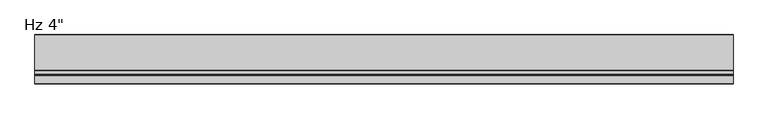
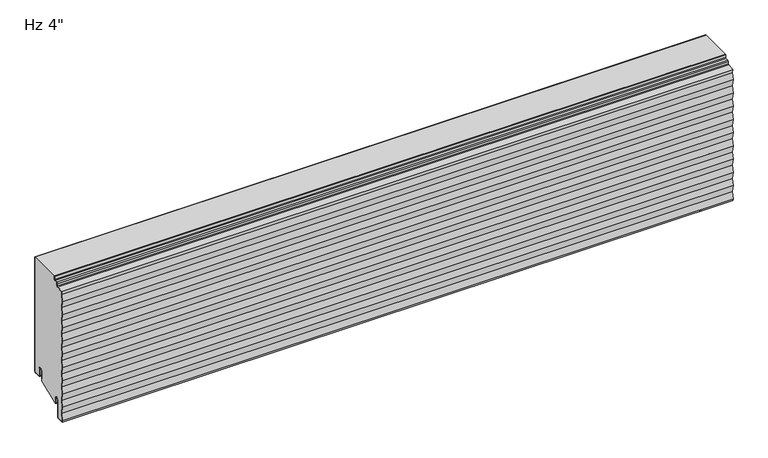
"""IFC4 building model written with IfcOpenShell, lengths in millimetres: plate geometry."""

from ifc_helpers import new_model, si_unit, point, frame, frame_2d, origin, place, context, project, spatial, polyline, circle_curve, trimmed, segment, composite_curve, outline, extrude, source, transform, mapped, element, save


def plate_b68b473e(model_context):
    return source(origin(), model_context, "Body", "SweptSolid", [
        extrude(outline(composite_curve([segment(trimmed(circle_curve(frame_2d((-21.43125, 19.05)), 4.96875), [point((-16.4625, 19.05))], [point((-26.4, 19.05))], True, "CARTESIAN"), True, "CONTINUOUS"), segment(polyline([(-26.4, 19.05), (-26.4, -3.1323422), (-74.6157227, -23.01875), (-76.2, -23.01875), (-76.2, -13.5080174), (-76.99375, -13.5080174), (-76.7875, -11.9205174)]), True, "CONTINUOUS"), segment(trimmed(circle_curve(frame_2d((-81.75625, -11.9205174)), 4.96875), [point((-76.7875, -11.9205174))], [point((-86.725, -11.9205174))], True, "CARTESIAN"), True, "CONTINUOUS"), segment(polyline([(-86.725, -11.9205174), (-86.725, -50.1038221)]), True, "CONTINUOUS"), segment(trimmed(circle_curve(frame_2d((-88.10625, -50.1038221)), 1.38125), [point((-86.725, -50.1038221))], [point((-88.033961, -51.4831791))], False, "CARTESIAN"), True, "CONTINUOUS"), segment(polyline([(-88.033961, -51.4831791), (-99.146461, -52.0655606)]), True, "CONTINUOUS"), segment(trimmed(circle_curve(frame_2d((-99.21875, -50.6862035)), 1.38125), [point((-99.146461, -52.0655606))], [point((-100.5310452, -51.1171708))], False, "CARTESIAN"), True, "CONTINUOUS"), segment(polyline([(-100.5310452, -51.1171708), (-100.8936034, -48.8511825), (-98.4552034, -33.6111825), (-100.8936034, -18.3711825), (-98.4552034, -3.1311825), (-100.8936034, 12.1088175), (-98.4552034, 27.3488175), (-100.8936034, 42.5888175), (-98.4552034, 57.8288175), (-100.8936034, 73.0688175), (-98.4552034, 88.3088175), (-100.8936034, 103.5488175), (-98.4552034, 118.7888175), (-100.8936034, 134.0288175), (-98.4552034, 149.2688175), (-100.8936034, 164.5088175), (-98.4552034, 179.7488175), (-100.8936034, 194.9888175), (-98.4552034, 210.2288175), (-100.8936034, 225.4688175), (-98.4552034, 240.7088175), (-99.5475009, 247.5356771), (-85.5895807, 248.2671807)]), True, "CONTINUOUS"), segment(trimmed(circle_curve(frame_2d((-85.725, 250.8511347)), 2.5875), [point((-85.5895807, 248.2671807))], [point((-83.1375, 250.8511347))], True, "CARTESIAN"), True, "CONTINUOUS"), segment(polyline([(-83.1375, 250.8511347), (-83.1375, 255.4824411)]), True, "CONTINUOUS"), segment(trimmed(circle_curve(frame_2d((-81.75625, 255.4824411)), 1.38125), [point((-83.1375, 255.4824411))], [point((-81.828539, 256.8617981))], False, "CARTESIAN"), True, "CONTINUOUS"), segment(polyline([(-81.828539, 256.8617981), (-76.0645807, 257.1638744)]), True, "CONTINUOUS"), segment(trimmed(circle_curve(frame_2d((-76.2, 259.7478283)), 2.5875), [point((-76.0645807, 257.1638744))], [point((-73.6125, 259.7478283))], True, "CARTESIAN"), True, "CONTINUOUS"), segment(polyline([(-73.6125, 259.7478283), (-73.6125, 266.4), (-1.0, 266.4), (-1.0, 3.175)]), True, "CONTINUOUS"), segment(trimmed(circle_curve(frame_2d((-2.38125, 3.175)), 1.38125), [point((-1.0, 3.175))], [point((-2.38125, 1.79375))], False, "CARTESIAN"), True, "CONTINUOUS"), segment(polyline([(-2.38125, 1.79375), (-15.08125, 1.79375)]), True, "CONTINUOUS"), segment(trimmed(circle_curve(frame_2d((-15.08125, 3.175)), 1.38125), [point((-15.08125, 1.79375))], [point((-16.4625, 3.175))], False, "CARTESIAN"), True, "CONTINUOUS"), segment(polyline([(-16.4625, 3.175), (-16.4625, 19.05)]), True, "CONTINUOUS")], self_intersect=False)), frame((-730.0, 0.0, 0.0), z_axis=(1.0, 0.0, 0.0), x_axis=(0.0, 1.0, 0.0)), (0.0, 0.0, 1.0), 1460.0),
        extrude(outline(composite_curve([segment(polyline([(-25.4, 0.79375), (-26.4, 0.79375), (-26.4, 19.05)]), True, "CONTINUOUS"), segment(trimmed(circle_curve(frame_2d((-21.43125, 19.05)), 4.96875), [point((-26.4, 19.05))], [point((-16.4625, 19.05))], False, "CARTESIAN"), True, "CONTINUOUS"), segment(polyline([(-16.4625, 19.05), (-16.4625, 3.175)]), True, "CONTINUOUS"), segment(trimmed(circle_curve(frame_2d((-15.08125, 3.175)), 1.38125), [point((-16.4625, 3.175))], [point((-15.08125, 1.79375))], True, "CARTESIAN"), True, "CONTINUOUS"), segment(polyline([(-15.08125, 1.79375), (-2.38125, 1.79375)]), True, "CONTINUOUS"), segment(trimmed(circle_curve(frame_2d((-2.38125, 3.175)), 1.38125), [point((-2.38125, 1.79375))], [point((-1.0, 3.175))], True, "CARTESIAN"), True, "CONTINUOUS"), segment(polyline([(-1.0, 3.175), (-1.0, 266.4), (0.0, 266.4), (0.0, 3.175)]), True, "CONTINUOUS"), segment(trimmed(circle_curve(frame_2d((-2.38125, 3.175)), 2.38125), [point((0.0, 3.175))], [point((-2.38125, 0.79375))], False, "CARTESIAN"), True, "CONTINUOUS"), segment(polyline([(-2.38125, 0.79375), (-15.08125, 0.79375)]), True, "CONTINUOUS"), segment(trimmed(circle_curve(frame_2d((-15.08125, 3.175)), 2.38125), [point((-15.08125, 0.79375))], [point((-17.4625, 3.175))], False, "CARTESIAN"), True, "CONTINUOUS"), segment(polyline([(-17.4625, 3.175), (-17.4625, 19.05)]), True, "CONTINUOUS"), segment(trimmed(circle_curve(frame_2d((-21.43125, 19.05)), 3.96875), [point((-17.4625, 19.05))], [point((-25.4, 19.05))], True, "CARTESIAN"), True, "CONTINUOUS"), segment(polyline([(-25.4, 19.05), (-25.4, 0.79375)]), True, "CONTINUOUS")], self_intersect=False)), frame((-730.0, 0.0, 0.0), z_axis=(1.0, 0.0, 0.0), x_axis=(0.0, 1.0, 0.0)), (0.0, 0.0, 1.0), 1460.0),
        extrude(outline(composite_curve([segment(trimmed(circle_curve(frame_2d((-76.99375, -23.2314549)), 0.79375), [point((-76.2, -23.2314549))], [point((-77.7875, -23.2314549))], False, "CARTESIAN"), True, "CONTINUOUS"), segment(polyline([(-77.7875, -23.2314549), (-77.7875, -11.9205174)]), True, "CONTINUOUS"), segment(trimmed(circle_curve(frame_2d((-81.75625, -11.9205174)), 3.96875), [point((-77.7875, -11.9205174))], [point((-85.725, -11.9205174))], True, "CARTESIAN"), True, "CONTINUOUS"), segment(polyline([(-85.725, -11.9205174), (-85.725, -50.1038221)]), True, "CONTINUOUS"), segment(trimmed(circle_curve(frame_2d((-88.10625, -50.1038221)), 2.38125), [point((-85.725, -50.1038221))], [point((-87.981625, -52.4818086))], False, "CARTESIAN"), True, "CONTINUOUS"), segment(polyline([(-87.981625, -52.4818086), (-102.1543553, -53.22457), (-102.8509395, -48.8709186), (-100.4125395, -33.6309186), (-102.8509395, -18.3909186), (-100.4125395, -3.1509186), (-102.8509395, 12.0890814), (-100.4125395, 27.3290814), (-102.8509395, 42.5690814), (-100.4125395, 57.8090814), (-102.8509395, 73.0490814), (-100.4125395, 88.2890814), (-102.8509395, 103.5290814), (-100.4125395, 118.7690814), (-102.8509395, 134.0090814), (-100.4125395, 149.2490814), (-102.8509395, 164.4890814), (-100.4125395, 179.7290814), (-102.8509395, 194.9690814), (-100.4125395, 210.2090814), (-102.8347341, 225.3477976), (-100.4125395, 240.4865139), (-101.6827208, 248.4251473), (-85.6419167, 249.2658103)]), True, "CONTINUOUS"), segment(trimmed(circle_curve(frame_2d((-85.725, 250.8511347)), 1.5875), [point((-85.6419167, 249.2658103))], [point((-84.1375, 250.8511347))], True, "CARTESIAN"), True, "CONTINUOUS"), segment(polyline([(-84.1375, 250.8511347), (-84.1375, 255.4824411)]), True, "CONTINUOUS"), segment(trimmed(circle_curve(frame_2d((-81.75625, 255.4824411)), 2.38125), [point((-84.1375, 255.4824411))], [point((-81.880875, 257.8604276))], False, "CARTESIAN"), True, "CONTINUOUS"), segment(polyline([(-81.880875, 257.8604276), (-76.1169167, 258.1625039)]), True, "CONTINUOUS"), segment(trimmed(circle_curve(frame_2d((-76.2, 259.7478283)), 1.5875), [point((-76.1169167, 258.1625039))], [point((-74.6125, 259.7478283))], True, "CARTESIAN"), True, "CONTINUOUS"), segment(polyline([(-74.6125, 259.7478283), (-74.6125, 266.4), (-73.6125, 266.4), (-73.6125, 259.7478283)]), True, "CONTINUOUS"), segment(trimmed(circle_curve(frame_2d((-76.2, 259.7478283)), 2.5875), [point((-73.6125, 259.7478283))], [point((-76.0645807, 257.1638744))], False, "CARTESIAN"), True, "CONTINUOUS"), segment(polyline([(-76.0645807, 257.1638744), (-81.828539, 256.8617981)]), True, "CONTINUOUS"), segment(trimmed(circle_curve(frame_2d((-81.75625, 255.4824411)), 1.38125), [point((-81.828539, 256.8617981))], [point((-83.1375, 255.4824411))], True, "CARTESIAN"), True, "CONTINUOUS"), segment(polyline([(-83.1375, 255.4824411), (-83.1375, 250.8511347)]), True, "CONTINUOUS"), segment(trimmed(circle_curve(frame_2d((-85.725, 250.8511347)), 2.5875), [point((-83.1375, 250.8511347))], [point((-85.5895807, 248.2671807))], False, "CARTESIAN"), True, "CONTINUOUS"), segment(polyline([(-85.5895807, 248.2671807), (-100.5195357, 247.4847349), (-99.3998204, 240.4865139), (-101.822015, 225.3477976), (-99.3998204, 210.2090814), (-101.8382204, 194.9690814), (-99.3998204, 179.7290814), (-101.8382204, 164.4890814), (-99.3998204, 149.2490814), (-101.8382204, 134.0090814), (-99.3998204, 118.7690814), (-101.8382204, 103.5290814), (-99.3998204, 88.2890814), (-101.8382204, 73.0490814), (-99.3998204, 57.8090814), (-101.8382204, 42.5690814), (-99.3998204, 27.3290814), (-101.8382204, 12.0890814), (-99.3998204, -3.1509186), (-101.8382204, -18.3909186), (-99.3998204, -33.6309186), (-101.8382204, -48.8709186), (-101.3089447, -52.1788915), (-88.033961, -51.4831791)]), True, "CONTINUOUS"), segment(trimmed(circle_curve(frame_2d((-88.10625, -50.1038221)), 1.38125), [point((-88.033961, -51.4831791))], [point((-86.725, -50.1038221))], True, "CARTESIAN"), True, "CONTINUOUS"), segment(polyline([(-86.725, -50.1038221), (-86.725, -11.9205174)]), True, "CONTINUOUS"), segment(trimmed(circle_curve(frame_2d((-81.75625, -11.9205174)), 4.96875), [point((-86.725, -11.9205174))], [point((-76.7875, -11.9205174))], False, "CARTESIAN"), True, "CONTINUOUS"), segment(polyline([(-76.7875, -11.9205174), (-76.99375, -13.5080174), (-76.2, -13.5080174), (-76.2, -23.2314549)]), True, "CONTINUOUS")], self_intersect=False)), frame((-730.0, 0.0, 0.0), z_axis=(1.0, 0.0, 0.0), x_axis=(0.0, 1.0, 0.0)), (0.0, 0.0, 1.0), 1460.0),
    ])


if __name__ == "__main__":
    model = new_model("IFC4")
    model_context = context("Model", 3, world=origin())
    ifc_project = project(units=[si_unit("LENGTHUNIT", "METRE", prefix="MILLI")], contexts=[model_context])
    site = spatial("IfcSite", under=ifc_project)
    building = spatial("IfcBuilding", under=site)
    placement = place(None, origin())
    plate_shape = plate_b68b473e(model_context)
    element("IfcPlate", 1, ObjectType="KIP-12-DWTR-R19-CP-Hz-S : Hz 4\"", at=placement, inside=building, context=model_context, shape_type="MappedRepresentation", body=[
        mapped(plate_shape, transform((0.0, 0.0, 0.0), x_axis=(1.0, 0.0, 0.0), y_axis=(0.0, 1.0, 0.0), z_axis=(0.0, 0.0, 1.0))),
    ])
    save(model, "model.ifc")
